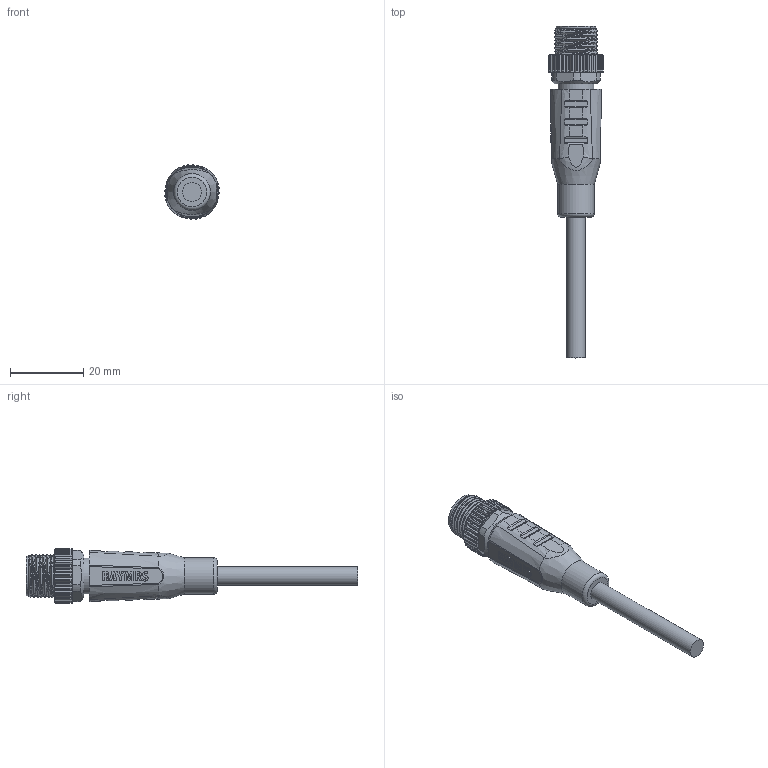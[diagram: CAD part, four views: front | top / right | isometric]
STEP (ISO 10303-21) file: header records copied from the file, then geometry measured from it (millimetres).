
FILE_DESCRIPTION(/* description */ (''),/* implementation_level */ '2;1');
FILE_NAME(/* name */ 'M12-12MS.P-L.stp',/* time_stamp */ '2022-01-19T15:05:19+08:00',/* author */ (''),/* organization */ (''),/* preprocessor_version */ 'ST-DEVELOPER v16.7',/* originating_system */ 'SIEMENS PLM Software NX 12.0',/* authorisation */ '');
FILE_SCHEMA (('AP203_CONFIGURATION_CONTROLLED_3D_DESIGN_OF_MECHANICAL_PARTS_AND_ASSEMBLIES_MIM_LF { 1 0 10303 403 2 1 2}'));
Length unit declared in the file: millimetre
Products named in the file (1): Admi2CD83BE1xu5r
Bounding box: 15 x 90.8 x 15 mm (x, y, z)
Volume: 6994.1 mm3; surface area: 4243.8 mm2
Topology: 1 solids, 17 shells, 552 faces, 1543 edges, 1030 vertices
Faces by surface type: plane 210, cylinder 177, cone 113, extrusion 22, bspline 16, sphere 12, torus 2
Full cylindrical faces by diameter (mm): 0.5 x12, 0.9 x12, 1 x12, 5.2 x1, 9.8 x1, 10 x1
Entity records: 20258 total; most frequent: CARTESIAN_POINT 6919, ORIENTED_EDGE 2804, DIRECTION 2581, EDGE_CURVE 1402, AXIS2_PLACEMENT_3D 968, VERTEX_POINT 967, EDGE_LOOP 659, VECTOR 645
